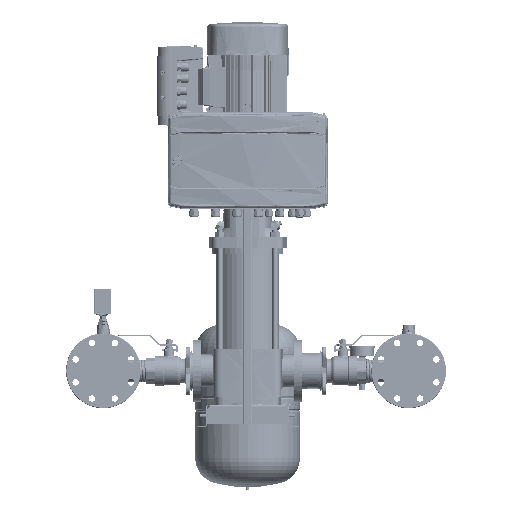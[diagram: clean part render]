
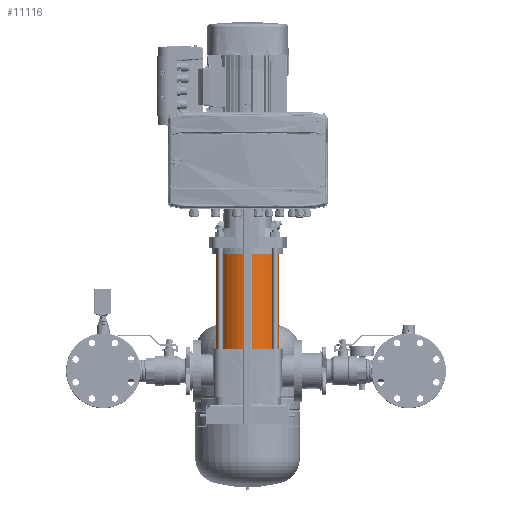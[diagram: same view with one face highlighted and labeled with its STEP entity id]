
A CAD part, left-side view. The second image highlights one B-rep face of the part: STEP entity #11116.
In plain terms, the highlighted cylindrical face has radius 85.35 mm (diameter 170.7 mm), a partial arc.
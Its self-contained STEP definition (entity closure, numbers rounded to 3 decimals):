
#11046=CARTESIAN_POINT('Axis2P3D Location',(284.,0.,0.)) ;
#11050=CARTESIAN_POINT('Vertex',(284.,-85.35,0.)) ;
#11052=CARTESIAN_POINT('Vertex',(284.,85.35,0.)) ;
#11073=CARTESIAN_POINT('Axis2P3D Location',(0.,0.,0.)) ;
#11078=CARTESIAN_POINT('Line Origine',(0.,-85.35,0.)) ;
#11082=CARTESIAN_POINT('Vertex',(0.,-85.35,0.)) ;
#11089=CARTESIAN_POINT('Vertex',(0.,85.35,0.)) ;
#11092=CARTESIAN_POINT('Line Origine',(0.,85.35,0.)) ;
#11105=CARTESIAN_POINT('Axis2P3D Location',(0.,0.,0.)) ;
#11080=VECTOR('Line Direction',#11079,1.) ;
#11094=VECTOR('Line Direction',#11093,1.) ;
#11047=DIRECTION('Axis2P3D Direction',(-1.,0.,0.)) ;
#11074=DIRECTION('Axis2P3D Direction',(1.,0.,0.)) ;
#11075=DIRECTION('Axis2P3D XDirection',(0.,-1.,0.)) ;
#11079=DIRECTION('Vector Direction',(1.,0.,0.)) ;
#11093=DIRECTION('Vector Direction',(1.,0.,0.)) ;
#11106=DIRECTION('Axis2P3D Direction',(1.,0.,0.)) ;
#11048=AXIS2_PLACEMENT_3D('Circle Axis2P3D',#11046,#11047,$) ;
#11076=AXIS2_PLACEMENT_3D('Cylinder Axis2P3D',#11073,#11074,#11075) ;
#11107=AXIS2_PLACEMENT_3D('Circle Axis2P3D',#11105,#11106,$) ;
#11081=LINE('Line',#11078,#11080) ;
#11095=LINE('Line',#11092,#11094) ;
#11049=CIRCLE('generated circle',#11048,85.35) ;
#11108=CIRCLE('generated circle',#11107,85.35) ;
#11077=CYLINDRICAL_SURFACE('generated cylinder',#11076,85.35) ;
#11054=EDGE_CURVE('',#11051,#11053,#11049,.T.) ;
#11084=EDGE_CURVE('',#11051,#11083,#11081,.F.) ;
#11096=EDGE_CURVE('',#11090,#11053,#11095,.T.) ;
#11109=EDGE_CURVE('',#11083,#11090,#11108,.F.) ;
#11111=ORIENTED_EDGE('',*,*,#11096,.F.) ;
#11112=ORIENTED_EDGE('',*,*,#11109,.F.) ;
#11113=ORIENTED_EDGE('',*,*,#11084,.F.) ;
#11114=ORIENTED_EDGE('',*,*,#11054,.T.) ;
#11110=EDGE_LOOP('',(#11111,#11112,#11113,#11114)) ;
#11051=VERTEX_POINT('',#11050) ;
#11053=VERTEX_POINT('',#11052) ;
#11083=VERTEX_POINT('',#11082) ;
#11090=VERTEX_POINT('',#11089) ;
#11116=ADVANCED_FACE('Solid1',(#11115),#11077,.T.) ;
#11115=FACE_OUTER_BOUND('',#11110,.T.) ;
